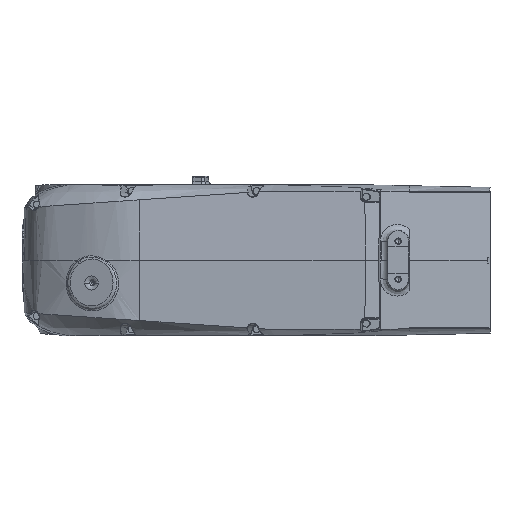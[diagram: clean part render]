
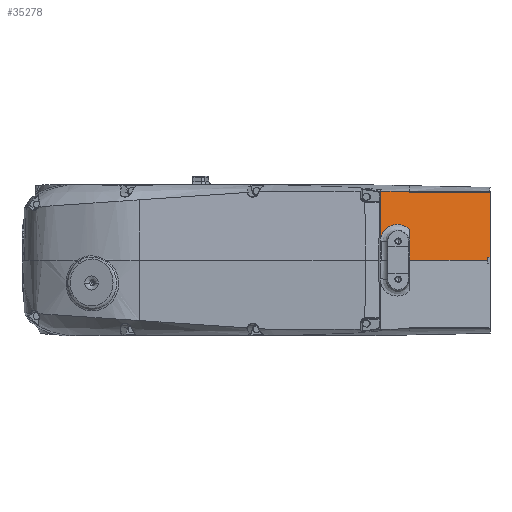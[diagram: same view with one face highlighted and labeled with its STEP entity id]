
A CAD part, top view. The second image highlights one B-rep face of the part: STEP entity #35278.
In plain terms, the highlighted planar face has unit normal (0.179, 0.035, 0.983).
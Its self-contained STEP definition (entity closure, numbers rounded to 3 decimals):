
#199 = B_SPLINE_CURVE_WITH_KNOTS ( 'NONE', 3,
 ( #14731, #47128, #51309, #10533 ),
 .UNSPECIFIED., .F., .F.,
 ( 4, 4 ),
 ( 0., 1. ),
 .UNSPECIFIED. ) ;
#696 = CARTESIAN_POINT ( 'NONE',  ( 279.239, 53.295, 946.983 ) ) ;
#1735 = CARTESIAN_POINT ( 'NONE',  ( 286.5, -0.622, 947.577 ) ) ;
#1819 = DIRECTION ( 'NONE',  ( 0., 0.999, -0.035 ) ) ;
#2139 = EDGE_CURVE ( 'NONE', #35291, #13974, #38396, .T. ) ;
#2988 = CARTESIAN_POINT ( 'NONE',  ( 286.5, 0., 947.555 ) ) ;
#3215 = VECTOR ( 'NONE', #7997, 1000. ) ;
#4111 = ORIENTED_EDGE ( 'NONE', *, *, #48225, .F. ) ;
#5151 = EDGE_CURVE ( 'NONE', #26639, #19228, #10128, .T. ) ;
#5478 = LINE ( 'NONE', #41341, #30833 ) ;
#5651 = CARTESIAN_POINT ( 'NONE',  ( 275.271, 53.321, 947.704 ) ) ;
#5940 = CARTESIAN_POINT ( 'NONE',  ( 202.063, 16.742, 962.312 ) ) ;
#6662 = DIRECTION ( 'NONE',  ( 0.179, 0.035, 0.983 ) ) ;
#7087 = CARTESIAN_POINT ( 'NONE',  ( 225., 53.312, 956.844 ) ) ;
#7997 = DIRECTION ( 'NONE',  ( -0.006, -0.999, 0.037 ) ) ;
#9017 = DIRECTION ( 'NONE',  ( 0., 0.999, -0.035 ) ) ;
#9330 = CARTESIAN_POINT ( 'NONE',  ( 287.177, 53.247, 945.542 ) ) ;
#9567 = EDGE_CURVE ( 'NONE', #10309, #31365, #48917, .T. ) ;
#10128 = LINE ( 'NONE', #43511, #16865 ) ;
#10309 = VERTEX_POINT ( 'NONE', #29611 ) ;
#10406 = ORIENTED_EDGE ( 'NONE', *, *, #2139, .T. ) ;
#10533 = CARTESIAN_POINT ( 'NONE',  ( 202.306, 54.337, 960.934 ) ) ;
#11166 = CARTESIAN_POINT ( 'NONE',  ( 216.114, 33.415, 959.166 ) ) ;
#11881 = FACE_OUTER_BOUND ( 'NONE', #20042, .T. ) ;
#12610 = VERTEX_POINT ( 'NONE', #32430 ) ;
#12650 = ORIENTED_EDGE ( 'NONE', *, *, #9567, .T. ) ;
#12753 = CARTESIAN_POINT ( 'NONE',  ( 283.208, 53.271, 946.262 ) ) ;
#13245 = VECTOR ( 'NONE', #9017, 1000. ) ;
#13267 = CARTESIAN_POINT ( 'NONE',  ( 288.5, 53.246, 945.301 ) ) ;
#13974 = VERTEX_POINT ( 'NONE', #2988 ) ;
#14731 = CARTESIAN_POINT ( 'NONE',  ( 225., 54.233, 956.811 ) ) ;
#16169 = CARTESIAN_POINT ( 'NONE',  ( 225., 54.233, 956.811 ) ) ;
#16865 = VECTOR ( 'NONE', #35679, 1000. ) ;
#17710 = CARTESIAN_POINT ( 'NONE',  ( 285.854, 53.257, 945.782 ) ) ;
#18913 = VERTEX_POINT ( 'NONE', #7087 ) ;
#19228 = VERTEX_POINT ( 'NONE', #24717 ) ;
#19250 = CARTESIAN_POINT ( 'NONE',  ( 225., 24.113, 957.881 ) ) ;
#20007 = CARTESIAN_POINT ( 'NONE',  ( 201.954, -0.157, 962.932 ) ) ;
#20042 = EDGE_LOOP ( 'NONE', ( #48723, #41802, #12650, #4111, #10406, #34330, #51558, #29961, #30671, #28360 ) ) ;
#20577 = CARTESIAN_POINT ( 'NONE',  ( 262.041, 53.349, 950.108 ) ) ;
#20825 = DIRECTION ( 'NONE',  ( 0., -0.999, 0.035 ) ) ;
#21614 = CARTESIAN_POINT ( 'NONE',  ( 246.167, 53.322, 952.995 ) ) ;
#22858 = LINE ( 'NONE', #35157, #39247 ) ;
#22874 = PLANE ( 'NONE',  #49898 ) ;
#24529 = CARTESIAN_POINT ( 'NONE',  ( 269.979, 53.346, 948.665 ) ) ;
#24717 = CARTESIAN_POINT ( 'NONE',  ( 288.5, 2.4, 947.106 ) ) ;
#25242 = CARTESIAN_POINT ( 'NONE',  ( 288.5, 53.246, 945.301 ) ) ;
#26639 = VERTEX_POINT ( 'NONE', #36926 ) ;
#27849 = EDGE_CURVE ( 'NONE', #29374, #12610, #199, .T. ) ;
#28360 = ORIENTED_EDGE ( 'NONE', *, *, #44097, .T. ) ;
#28697 = CARTESIAN_POINT ( 'NONE',  ( 259.396, 53.343, 950.589 ) ) ;
#29374 = VERTEX_POINT ( 'NONE', #16169 ) ;
#29611 = CARTESIAN_POINT ( 'NONE',  ( 202.063, 16.742, 962.312 ) ) ;
#29961 = ORIENTED_EDGE ( 'NONE', *, *, #46187, .T. ) ;
#30671 = ORIENTED_EDGE ( 'NONE', *, *, #38991, .T. ) ;
#30833 = VECTOR ( 'NONE', #1819, 1000. ) ;
#30996 = CARTESIAN_POINT ( 'NONE',  ( 225., 0., 958.736 ) ) ;
#31046 = DIRECTION ( 'NONE',  ( 0.984, 0., -0.179 ) ) ;
#31365 = VERTEX_POINT ( 'NONE', #33127 ) ;
#32430 = CARTESIAN_POINT ( 'NONE',  ( 202.306, 54.337, 960.934 ) ) ;
#32601 = EDGE_CURVE ( 'NONE', #26639, #13974, #40742, .T. ) ;
#33127 = CARTESIAN_POINT ( 'NONE',  ( 225., 24.113, 957.881 ) ) ;
#33947 = CARTESIAN_POINT ( 'NONE',  ( 203.866, 29.479, 961.533 ) ) ;
#34330 = ORIENTED_EDGE ( 'NONE', *, *, #32601, .F. ) ;
#35157 = CARTESIAN_POINT ( 'NONE',  ( 225., -0.226, 958.744 ) ) ;
#35278 = ADVANCED_FACE ( 'NONE', ( #11881 ), #22874, .T. ) ;
#35291 = VERTEX_POINT ( 'NONE', #30996 ) ;
#35679 = DIRECTION ( 'NONE',  ( 0.983, 0.034, -0.18 ) ) ;
#36040 = VECTOR ( 'NONE', #31046, 1000. ) ;
#36823 = CARTESIAN_POINT ( 'NONE',  ( 267.333, 53.353, 949.146 ) ) ;
#36926 = CARTESIAN_POINT ( 'NONE',  ( 286.5, 2.33, 947.472 ) ) ;
#38396 = LINE ( 'NONE', #50904, #36040 ) ;
#38991 = EDGE_CURVE ( 'NONE', #49508, #18913, #39057, .T. ) ;
#39057 = B_SPLINE_CURVE_WITH_KNOTS ( 'NONE', 3,
 ( #13267, #9330, #17710, #12753, #696, #5651, #24529, #36823, #20577, #28697, #21614, #44629, #44882 ),
 .UNSPECIFIED., .F., .F.,
 ( 4, 2, 1, 2, 2, 2, 4 ),
 ( 0., 0.004, 0.008, 0.016, 0.024, 0.032, 0.065 ),
 .UNSPECIFIED. ) ;
#39111 = CARTESIAN_POINT ( 'NONE',  ( 190., 0., 965.1 ) ) ;
#39247 = VECTOR ( 'NONE', #50337, 1000. ) ;
#40742 = LINE ( 'NONE', #1735, #40983 ) ;
#40983 = VECTOR ( 'NONE', #20825, 1000. ) ;
#41341 = CARTESIAN_POINT ( 'NONE',  ( 288.5, -0.635, 947.213 ) ) ;
#41802 = ORIENTED_EDGE ( 'NONE', *, *, #44048, .T. ) ;
#43511 = CARTESIAN_POINT ( 'NONE',  ( 190.042, -1.038, 965.129 ) ) ;
#44048 = EDGE_CURVE ( 'NONE', #12610, #10309, #50710, .T. ) ;
#44097 = EDGE_CURVE ( 'NONE', #18913, #29374, #44833, .T. ) ;
#44629 = CARTESIAN_POINT ( 'NONE',  ( 235.583, 53.311, 954.92 ) ) ;
#44833 = LINE ( 'NONE', #45369, #13245 ) ;
#44882 = CARTESIAN_POINT ( 'NONE',  ( 225., 53.312, 956.844 ) ) ;
#45369 = CARTESIAN_POINT ( 'NONE',  ( 225., -0.226, 958.744 ) ) ;
#46187 = EDGE_CURVE ( 'NONE', #19228, #49508, #5478, .T. ) ;
#46673 = DIRECTION ( 'NONE',  ( 0.192, -0.981, 0. ) ) ;
#47128 = CARTESIAN_POINT ( 'NONE',  ( 217.435, 54.268, 958.186 ) ) ;
#48225 = EDGE_CURVE ( 'NONE', #35291, #31365, #22858, .T. ) ;
#48723 = ORIENTED_EDGE ( 'NONE', *, *, #27849, .T. ) ;
#48917 =( BOUNDED_CURVE ( )  B_SPLINE_CURVE ( 3, ( #5940, #33947, #11166, #19250 ),
 .UNSPECIFIED., .F., .T. ) 
 B_SPLINE_CURVE_WITH_KNOTS ( ( 4, 4 ),
 ( 3.475, 5.713 ),
 .UNSPECIFIED. ) 
 CURVE ( )  GEOMETRIC_REPRESENTATION_ITEM ( )  RATIONAL_B_SPLINE_CURVE ( ( 1., 0.624, 0.624, 1. ) ) 
 REPRESENTATION_ITEM ( '' )  );
#49508 = VERTEX_POINT ( 'NONE', #25242 ) ;
#49898 = AXIS2_PLACEMENT_3D ( 'NONE', #39111, #6662, #46673 ) ;
#50337 = DIRECTION ( 'NONE',  ( 0., 0.999, -0.035 ) ) ;
#50710 = LINE ( 'NONE', #20007, #3215 ) ;
#50904 = CARTESIAN_POINT ( 'NONE',  ( 190., 0., 965.1 ) ) ;
#51309 = CARTESIAN_POINT ( 'NONE',  ( 209.871, 54.302, 959.56 ) ) ;
#51558 = ORIENTED_EDGE ( 'NONE', *, *, #5151, .T. ) ;
